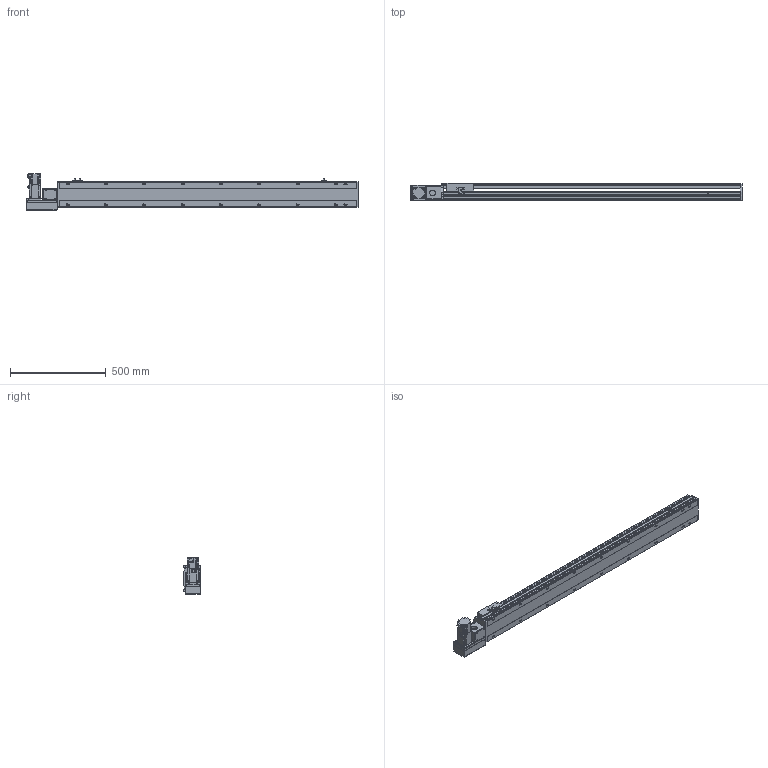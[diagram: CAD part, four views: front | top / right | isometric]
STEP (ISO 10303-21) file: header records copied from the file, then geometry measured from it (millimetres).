
FILE_DESCRIPTION( ( 'STEP AP214' ), '1' );
FILE_NAME( 'x:/temp/worker_6/temp/exporttempdir_5396_16_1c00E/format_0/PBS140S-P40-S1300-L-T40-C1-N(0).stp', '2022-06-09T00:01:53', ( 'License CC BY-ND 4.0' ), ( 'CADENAS' ), ' ', 'PARTsolutions', ' ' );
FILE_SCHEMA( ( 'AUTOMOTIVE_DESIGN { 1 0 10303 214 1 1 1 1 }' ) );
Length unit declared in the file: millimetre
Products named in the file (7): PBS140S-P40-S1300-L-T40-C1-N(0); _PBS140S-S1300()_body; _PBS140ST-L_motors; _T40-p1; _PBS140S_sliser; _PBS140S_plant; _PBS140S_sensor
Assembly tree (8 placements, depth 2):
  PBS140S-P40-S1300-L-T40-C1-N(0)
    _PBS140S-S1300()_body
    _PBS140ST-L_motors
    _T40-p1
    _PBS140S_sliser
    _PBS140S_plant
    _PBS140S_sensor  x3
Bounding box: 1733 x 93 x 189.7 mm (x, y, z)
Volume: 8403989.8 mm3; surface area: 1443294.9 mm2
Topology: 8 solids, 8 shells, 1115 faces, 2951 edges, 1931 vertices
Faces by surface type: plane 708, cylinder 353, cone 44, sphere 8, torus 2
Full cylindrical faces by diameter (mm): 3.242 x4, 4 x2, 4.134 x4, 4.4 x8, 4.5 x2, 4.8 x4, 4.917 x26, 5.5 x7, 6 x2, 7 x20, 7.5 x8, 8 x12, 8.5 x4, 10.5 x18, 14 x1, 30 x2, 50 x2
Entity records: 40978 total; most frequent: CARTESIAN_POINT 6574, DIRECTION 5418, ORIENTED_EDGE 5122, EDGE_CURVE 2561, AXIS2_PLACEMENT_3D 1889, VERTEX_POINT 1777, LINE 1640, VECTOR 1640
